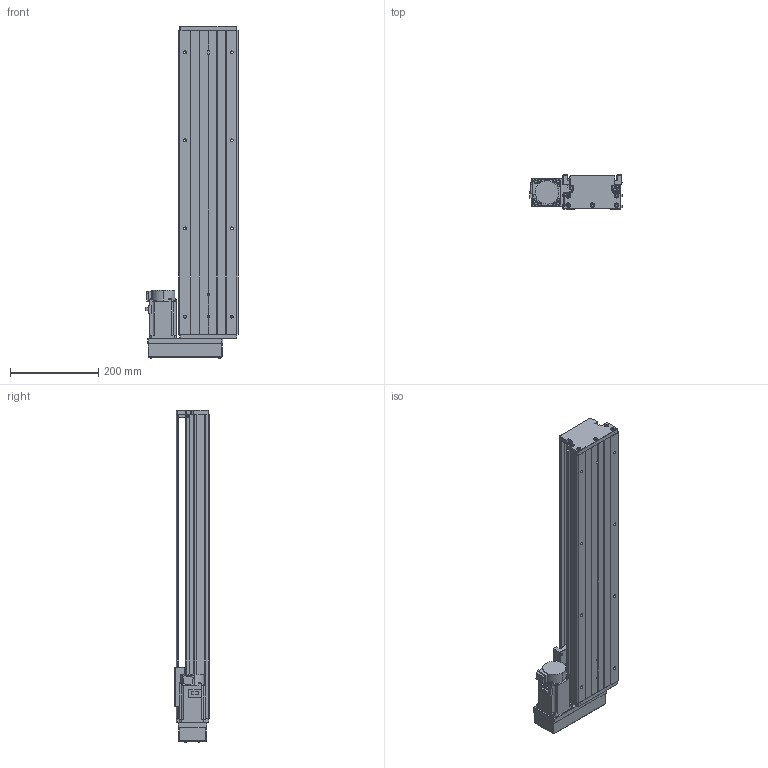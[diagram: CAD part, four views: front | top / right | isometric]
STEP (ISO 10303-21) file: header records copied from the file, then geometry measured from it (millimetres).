
FILE_DESCRIPTION (( 'STEP AP203' ), '1' );
FILE_NAME ('KTH130-550-BL-M40-C4.step', '2023-06-30T03:59:13', ( '微软用户' ), ( '微软中国' ), 'SwSTEP 2.0', 'SolidWorks 2020', '' );
FILE_SCHEMA (( 'CONFIG_CONTROL_DESIGN' ));
Length unit declared in the file: millimetre
Products named in the file (19): GBT70.1 M5℅16; す晦芛蹟隊 M3℅5; GBT 70.2-M3¡Á5_M3¡Á6; GBT 70.3-M3℅8; GTH14-001_550; CTHA60-017; HG-KN43J-S100; KTH130-002_KTH130-002; EE_SX911P_R; GBT 70.2-M4¡Á35_M4¡Á35; KTH130-004; CTHA60-016; GTH14-015-2_CTHA86-015-2; KTH130-005; GBT 70.1-M3℅5; GTH14-033; GB1155-6X6; GBT77-2000 M3×3; KTH130-550-BL-M40-C4
Assembly tree (53 placements, depth 2):
  KTH130-550-BL-M40-C4
    GTH14-001_550
    KTH130-002_KTH130-002
    KTH130-004
    KTH130-005
    GB1155-6X6  x2
    GBT70.1 M5℅16  x10
    GBT 70.2-M3¡Á5_M3¡Á6  x4
    CTHA60-017  x3
    EE_SX911P_R  x3
    CTHA60-016  x2
    GBT 70.1-M3℅5  x6
    GBT77-2000 M3×3  x6
    す晦芛蹟隊 M3℅5  x2
    GBT 70.3-M3℅8  x4
    HG-KN43J-S100
    GBT 70.2-M4¡Á35_M4¡Á35  x4
    GTH14-015-2_CTHA86-015-2
    GTH14-033
Bounding box: 209.3 x 78 x 754.2 mm (x, y, z)
Volume: 4387945.5 mm3; surface area: 729553.5 mm2
Topology: 56 solids, 56 shells, 2213 faces, 5342 edges, 3326 vertices
Faces by surface type: plane 1195, cylinder 604, cone 290, torus 100, sphere 24
Entity records: 40250 total; most frequent: CARTESIAN_POINT 8584, DIRECTION 5979, ORIENTED_EDGE 5884, EDGE_CURVE 2942, AXIS2_PLACEMENT_3D 2052, VERTEX_POINT 1879, LINE 1875, VECTOR 1875
